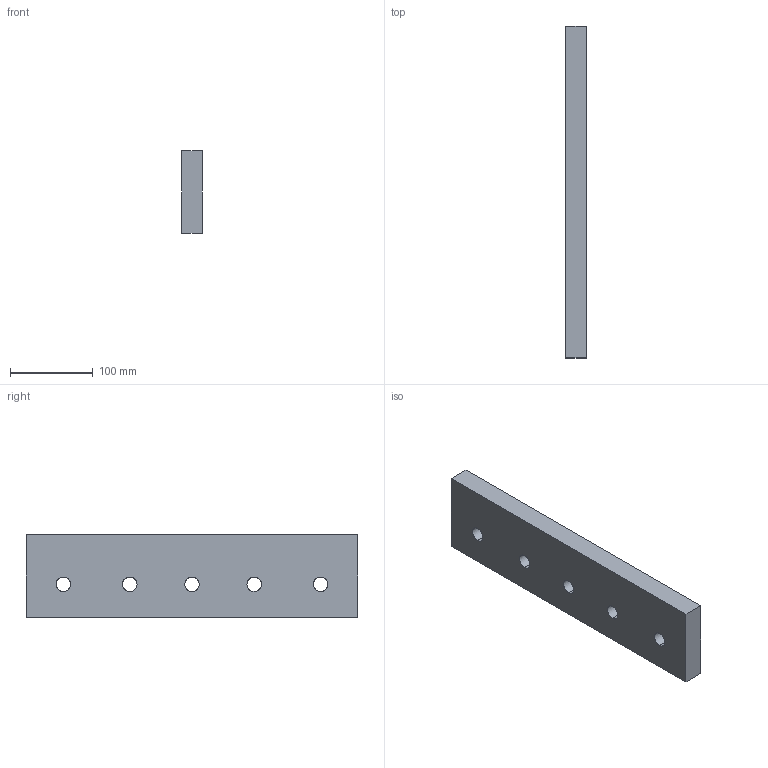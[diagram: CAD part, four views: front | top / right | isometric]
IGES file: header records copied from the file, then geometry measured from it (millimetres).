
Start section: START RECORD GO HERE.
Global section: file name: A612-100-400.igs; native system: DASSAULT SYSTEMES CATIA V5 R20 - www.3ds.com; preprocessor: CATIA Version 5 Release 20 ; author: Utente; organization: NB04-ASUS; date: 20200414.152033; units: millimetre
Bounding box: 25 x 400 x 100 mm (x, y, z)
Surface area: 109467 mm2 (no closed solid volume)
Topology: 0 solids, 0 shells, 16 faces, 84 edges, 84 vertices
Faces by surface type: revolution 10, extrusion 6
